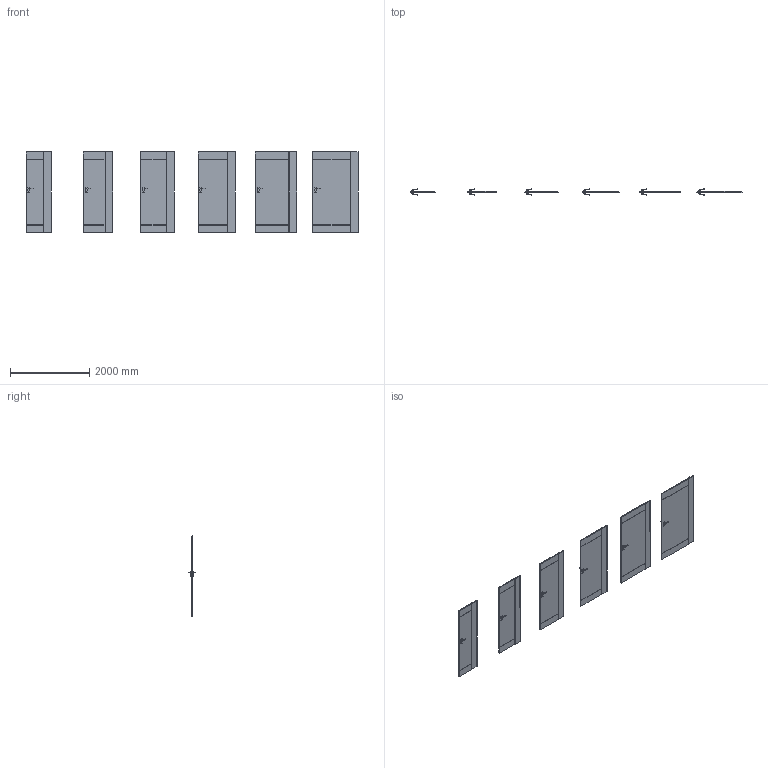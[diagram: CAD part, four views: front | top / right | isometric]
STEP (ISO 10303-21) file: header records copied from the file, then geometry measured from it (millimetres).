
FILE_DESCRIPTION(/* description */ (''),/* implementation_level */ '2;1');
FILE_NAME(/* name */ '049635_A_2-Skrzydło LINE model I.1_ polska norma _PN__ przylgowe..stp',/* time_stamp */ '2024-01-26T13:35:39+01:00',/* author */ (''),/* organization */ (''),/* preprocessor_version */ 'ST-DEVELOPER v16',/* originating_system */ 'SIEMENS PLM Software NX 11.0',/* authorisation */ '');
FILE_SCHEMA (('AUTOMOTIVE_DESIGN { 1 0 10303 214 3 1 1 1 }'));
Length unit declared in the file: millimetre
Products named in the file (1): bkni4C30E0B7uz67
Bounding box: 8394 x 153.27 x 2030 mm (x, y, z)
Volume: 418580253.9 mm3; surface area: 24128227.8 mm2
Topology: 66 solids, 66 shells, 1428 faces, 3360 edges, 1944 vertices
Faces by surface type: plane 804, cylinder 264, bspline 192, sphere 168
Entity records: 46108 total; most frequent: CARTESIAN_POINT 14989, ORIENTED_EDGE 6384, DIRECTION 6026, EDGE_CURVE 3192, LINE 2112, VECTOR 2112, AXIS2_PLACEMENT_3D 1957, VERTEX_POINT 1944
